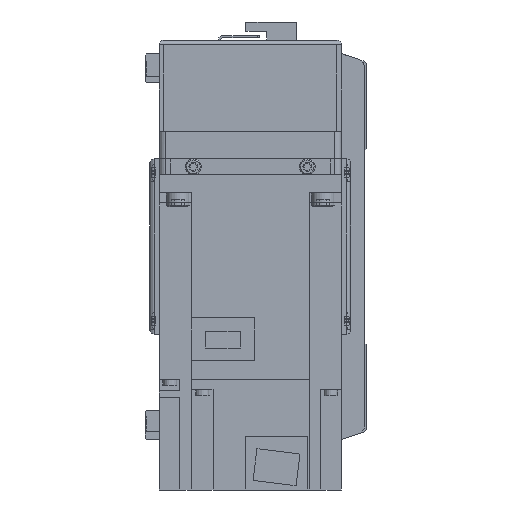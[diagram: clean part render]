
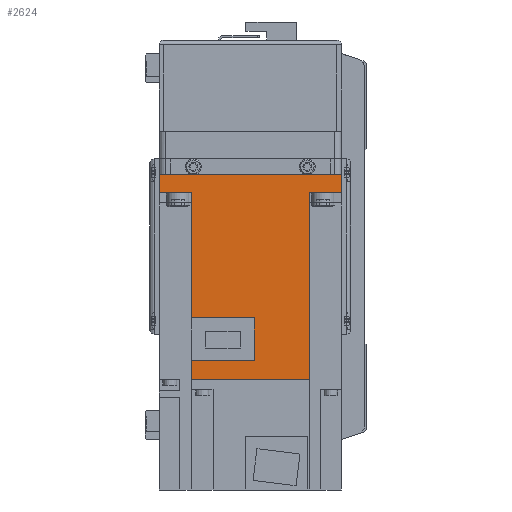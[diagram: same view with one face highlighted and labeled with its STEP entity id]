
A CAD part, left-side view. The second image highlights one B-rep face of the part: STEP entity #2624.
In plain terms, the highlighted planar face has unit normal (-1, 0, 0) as drawn and (1, 0, 0) by its records, which use the part's own axes.
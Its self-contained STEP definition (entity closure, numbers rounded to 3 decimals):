
#2624 = ADVANCED_FACE( '', ( #5843 ), #5844, .F. );
#5843 = FACE_OUTER_BOUND( '', #9585, .T. );
#5844 = PLANE( '', #9586 );
#9585 = EDGE_LOOP( '', ( #17041, #17042, #17043, #17044, #17045, #17046, #17047, #17048, #17049, #17050, #17051, #17052 ) );
#9586 = AXIS2_PLACEMENT_3D( '', #17053, #17054, #17055 );
#17041 = ORIENTED_EDGE( '', *, *, #23867, .F. );
#17042 = ORIENTED_EDGE( '', *, *, #21029, .F. );
#17043 = ORIENTED_EDGE( '', *, *, #22545, .F. );
#17044 = ORIENTED_EDGE( '', *, *, #23372, .T. );
#17045 = ORIENTED_EDGE( '', *, *, #23868, .F. );
#17046 = ORIENTED_EDGE( '', *, *, #22357, .T. );
#17047 = ORIENTED_EDGE( '', *, *, #22418, .T. );
#17048 = ORIENTED_EDGE( '', *, *, #23510, .F. );
#17049 = ORIENTED_EDGE( '', *, *, #23869, .F. );
#17050 = ORIENTED_EDGE( '', *, *, #21031, .F. );
#17051 = ORIENTED_EDGE( '', *, *, #22789, .F. );
#17052 = ORIENTED_EDGE( '', *, *, #21918, .F. );
#17053 = CARTESIAN_POINT( '', ( 40., 89.8, 40. ) );
#17054 = DIRECTION( '', ( -1., 0., 0. ) );
#17055 = DIRECTION( '', ( 0., 0., 1. ) );
#21029 = EDGE_CURVE( '', #24940, #24942, #24943, .T. );
#21031 = EDGE_CURVE( '', #24944, #24946, #24947, .T. );
#21918 = EDGE_CURVE( '', #26500, #26501, #26502, .T. );
#22357 = EDGE_CURVE( '', #27203, #27201, #27204, .T. );
#22418 = EDGE_CURVE( '', #27201, #27296, #27298, .T. );
#22545 = EDGE_CURVE( '', #27503, #24940, #27505, .T. );
#22789 = EDGE_CURVE( '', #26501, #24944, #27888, .T. );
#23372 = EDGE_CURVE( '', #27503, #28751, #28753, .T. );
#23510 = EDGE_CURVE( '', #28947, #27296, #28949, .T. );
#23867 = EDGE_CURVE( '', #24942, #26500, #29414, .T. );
#23868 = EDGE_CURVE( '', #27203, #28751, #29415, .T. );
#23869 = EDGE_CURVE( '', #24946, #28947, #29416, .T. );
#24940 = VERTEX_POINT( '', #30742 );
#24942 = VERTEX_POINT( '', #30745 );
#24943 = LINE( '', #30746, #30747 );
#24944 = VERTEX_POINT( '', #30748 );
#24946 = VERTEX_POINT( '', #30751 );
#24947 = LINE( '', #30752, #30753 );
#26500 = VERTEX_POINT( '', #33156 );
#26501 = VERTEX_POINT( '', #33157 );
#26502 = LINE( '', #33158, #33159 );
#27201 = VERTEX_POINT( '', #34258 );
#27203 = VERTEX_POINT( '', #34261 );
#27204 = LINE( '', #34262, #34263 );
#27296 = VERTEX_POINT( '', #34385 );
#27298 = LINE( '', #34388, #34389 );
#27503 = VERTEX_POINT( '', #34720 );
#27505 = LINE( '', #34723, #34724 );
#27888 = LINE( '', #35352, #35353 );
#28751 = VERTEX_POINT( '', #36938 );
#28753 = LINE( '', #36941, #36942 );
#28947 = VERTEX_POINT( '', #37313 );
#28949 = LINE( '', #37316, #37317 );
#29414 = LINE( '', #37977, #37978 );
#29415 = LINE( '', #37979, #37980 );
#29416 = LINE( '', #37981, #37982 );
#30742 = CARTESIAN_POINT( '', ( 40., 89.8, -25.95 ) );
#30745 = CARTESIAN_POINT( '', ( 40., 81.4, -25.95 ) );
#30746 = CARTESIAN_POINT( '', ( 40., 158., -25.95 ) );
#30747 = VECTOR( '', #39467, 1000. );
#30748 = CARTESIAN_POINT( '', ( 40., 62.8, -25.95 ) );
#30751 = CARTESIAN_POINT( '', ( 40., 8., -25.95 ) );
#30752 = CARTESIAN_POINT( '', ( 40., 158., -25.95 ) );
#30753 = VECTOR( '', #39469, 1000. );
#33156 = CARTESIAN_POINT( '', ( 40., 81.4, 1.8 ) );
#33157 = CARTESIAN_POINT( '', ( 40., 62.8, 1.8 ) );
#33158 = CARTESIAN_POINT( '', ( 40., 81.4, 1.8 ) );
#33159 = VECTOR( '', #40695, 1000. );
#34258 = CARTESIAN_POINT( '', ( 40., 0., 40. ) );
#34261 = CARTESIAN_POINT( '', ( 40., 8., 40. ) );
#34262 = CARTESIAN_POINT( '', ( 40., 89.8, 40. ) );
#34263 = VECTOR( '', #41232, 1000. );
#34385 = CARTESIAN_POINT( '', ( 40., 0., -40. ) );
#34388 = CARTESIAN_POINT( '', ( 40., 0., 40. ) );
#34389 = VECTOR( '', #41309, 1000. );
#34720 = CARTESIAN_POINT( '', ( 40., 89.8, 25.95 ) );
#34723 = CARTESIAN_POINT( '', ( 40., 89.8, 40. ) );
#34724 = VECTOR( '', #41471, 1000. );
#35352 = CARTESIAN_POINT( '', ( 40., 62.8, 1.8 ) );
#35353 = VECTOR( '', #41756, 1000. );
#36938 = CARTESIAN_POINT( '', ( 40., 8., 25.95 ) );
#36941 = CARTESIAN_POINT( '', ( 40., 158., 25.95 ) );
#36942 = VECTOR( '', #42429, 1000. );
#37313 = CARTESIAN_POINT( '', ( 40., 8., -40. ) );
#37316 = CARTESIAN_POINT( '', ( 40., 89.8, -40. ) );
#37317 = VECTOR( '', #42572, 1000. );
#37977 = CARTESIAN_POINT( '', ( 40., 81.4, -26. ) );
#37978 = VECTOR( '', #42971, 1000. );
#37979 = CARTESIAN_POINT( '', ( 40., 8., 40. ) );
#37980 = VECTOR( '', #42972, 1000. );
#37981 = CARTESIAN_POINT( '', ( 40., 8., 40. ) );
#37982 = VECTOR( '', #42973, 1000. );
#39467 = DIRECTION( '', ( 0., -1., 0. ) );
#39469 = DIRECTION( '', ( 0., -1., 0. ) );
#40695 = DIRECTION( '', ( 0., -1., 0. ) );
#41232 = DIRECTION( '', ( 0., -1., 0. ) );
#41309 = DIRECTION( '', ( 0., 0., -1. ) );
#41471 = DIRECTION( '', ( 0., 0., -1. ) );
#41756 = DIRECTION( '', ( 0., 0., -1. ) );
#42429 = DIRECTION( '', ( 0., -1., 0. ) );
#42572 = DIRECTION( '', ( 0., -1., 0. ) );
#42971 = DIRECTION( '', ( 0., 0., 1. ) );
#42972 = DIRECTION( '', ( 0., 0., -1. ) );
#42973 = DIRECTION( '', ( 0., 0., -1. ) );
